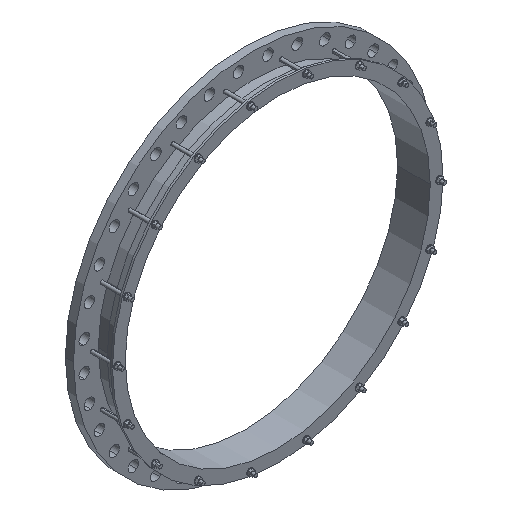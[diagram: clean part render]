
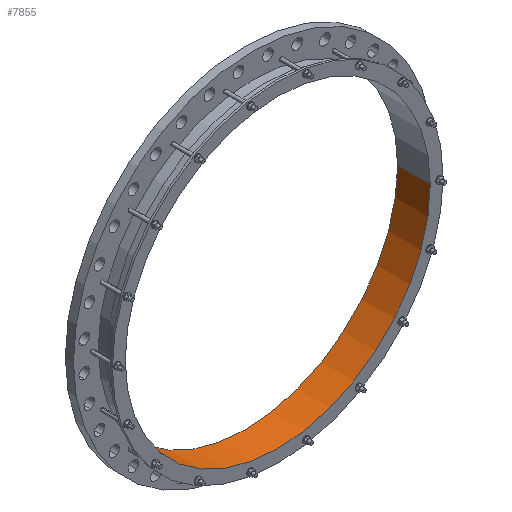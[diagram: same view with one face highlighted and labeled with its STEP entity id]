
A CAD part, isometric view. The second image highlights one B-rep face of the part: STEP entity #7855.
In plain terms, the highlighted cylindrical face has radius 714.75 mm (diameter 1429.5 mm), a partial arc.
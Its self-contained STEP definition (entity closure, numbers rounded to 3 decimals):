
#7=CARTESIAN_POINT('',(0.,38.,0.));
#8=DIRECTION('',(0.,1.,0.));
#9=DIRECTION('',(1.,0.,0.));
#10=AXIS2_PLACEMENT_3D('',#7,#8,#9);
#2138=CARTESIAN_POINT('',(0.,-115.,0.));
#2139=DIRECTION('',(0.,1.,0.));
#2140=DIRECTION('',(1.,0.,0.));
#2141=AXIS2_PLACEMENT_3D('',#2138,#2139,#2140);
#2143=DIRECTION('',(0.,1.,0.));
#2144=VECTOR('',#2143,153.);
#2145=CARTESIAN_POINT('',(714.75,-115.,0.));
#2146=LINE('',#2145,#2144);
#2147=DIRECTION('',(0.,1.,0.));
#2148=VECTOR('',#2147,153.);
#2149=CARTESIAN_POINT('',(-714.75,-115.,0.));
#2150=LINE('',#2149,#2148);
#5482=CARTESIAN_POINT('',(714.75,-115.,0.));
#5483=CARTESIAN_POINT('',(714.75,38.,0.));
#5484=VERTEX_POINT('',#5482);
#5485=VERTEX_POINT('',#5483);
#5494=CARTESIAN_POINT('',(-714.75,-115.,0.));
#5495=CARTESIAN_POINT('',(-714.75,38.,0.));
#5496=VERTEX_POINT('',#5494);
#5497=VERTEX_POINT('',#5495);
#7842=CARTESIAN_POINT('',(0.,-122.65,0.));
#7843=DIRECTION('',(0.,1.,0.));
#7844=DIRECTION('',(-1.,0.,0.));
#7845=AXIS2_PLACEMENT_3D('',#7842,#7843,#7844);
#7846=CYLINDRICAL_SURFACE('',#7845,714.75);
#7848=ORIENTED_EDGE('',*,*,#7847,.F.);
#7849=ORIENTED_EDGE('',*,*,#7729,.T.);
#7851=ORIENTED_EDGE('',*,*,#7850,.T.);
#7852=ORIENTED_EDGE('',*,*,#6719,.F.);
#7853=EDGE_LOOP('',(#7848,#7849,#7851,#7852));
#7854=FACE_OUTER_BOUND('',#7853,.F.);
#7855=ADVANCED_FACE('',(#7854),#7846,.F.);
#11=CIRCLE('',#10,714.75);
#2142=CIRCLE('',#2141,714.75);
#6719=EDGE_CURVE('',#5485,#5497,#11,.T.);
#7729=EDGE_CURVE('',#5484,#5496,#2142,.T.);
#7847=EDGE_CURVE('',#5484,#5485,#2146,.T.);
#7850=EDGE_CURVE('',#5496,#5497,#2150,.T.);
